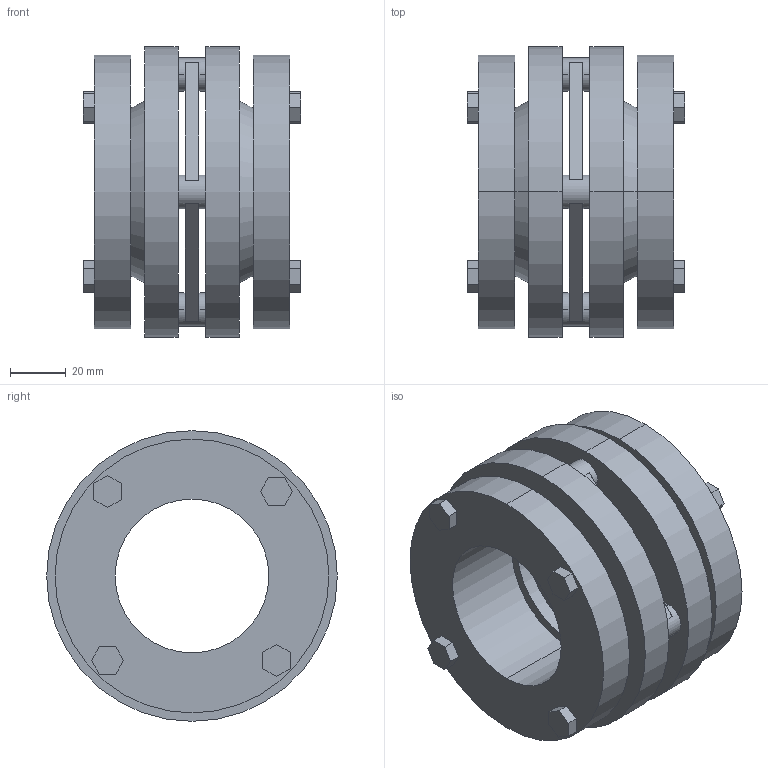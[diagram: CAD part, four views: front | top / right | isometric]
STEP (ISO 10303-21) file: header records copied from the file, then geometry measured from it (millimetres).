
FILE_DESCRIPTION (( 'STEP AP203' ), '1' );
FILE_NAME ('SW-104(D£p55~£p60).STEP', '2009-09-30T15:42:41', ( 'USER' ), ( 'HOME' ), 'SwSTEP 2.0', 'SolidWorks 2007', '' );
FILE_SCHEMA (( 'CONFIG_CONTROL_DESIGN' ));
Length unit declared in the file: millimetre
Products named in the file (1): SW-104(D｣p55~｣p60)
Bounding box: 78 x 104 x 104 mm (x, y, z)
Volume: 306414.4 mm3; surface area: 79806.2 mm2
Topology: 9 solids, 9 shells, 108 faces, 270 edges, 180 vertices
Faces by surface type: plane 78, cylinder 26, cone 4
Entity records: 3327 total; most frequent: DIRECTION 564, CARTESIAN_POINT 559, ORIENTED_EDGE 540, EDGE_CURVE 270, VECTOR 194, LINE 194, AXIS2_PLACEMENT_3D 185, VERTEX_POINT 180
